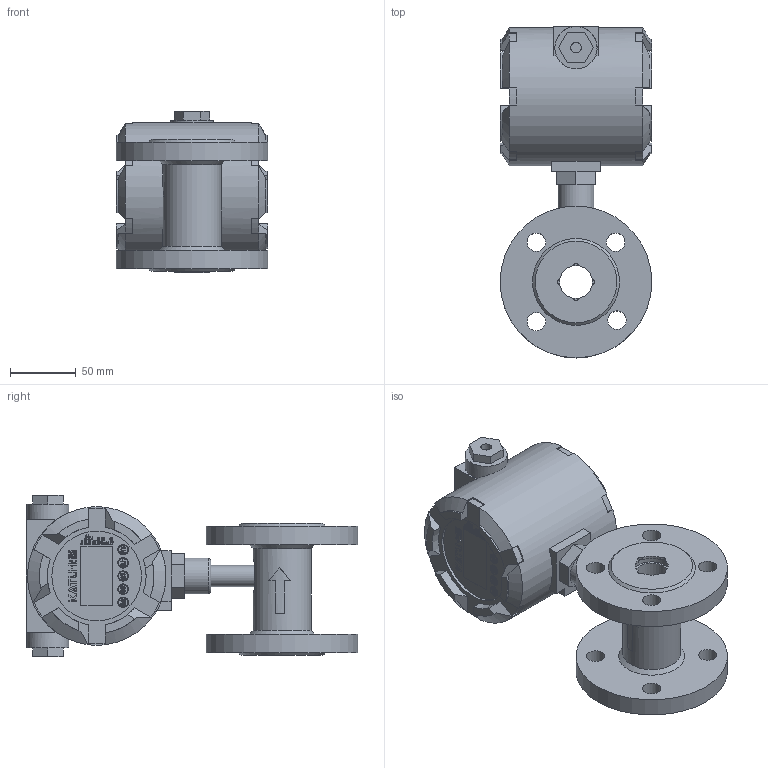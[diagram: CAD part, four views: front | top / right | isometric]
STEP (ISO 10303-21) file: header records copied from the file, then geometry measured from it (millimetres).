
FILE_DESCRIPTION( (''), '2;1');
FILE_NAME( 'QTKC_DN25_flange_Ex.step', '2024-10-14T10:10:40+08:00', (''), (''), '', '', '');
FILE_SCHEMA (('AUTOMOTIVE_DESIGN { 1 0 10303 214 3 1 1 1 }'));
Length unit declared in the file: millimetre
Products named in the file (1): QTKC DN25_flange_Ex
Bounding box: 115.02 x 251.5 x 122.4 mm (x, y, z)
Volume: 1286494.2 mm3; surface area: 146992.4 mm2
Topology: 4 solids, 4 shells, 1373 faces, 3758 edges, 2498 vertices
Faces by surface type: plane 743, extrusion 504, cylinder 96, cone 21, torus 6, bspline 3
Full cylindrical faces by diameter (mm): 3.3 x1, 8 x2, 14 x8, 16 x1, 16.5 x1, 18.5 x1, 20 x2, 25 x1, 27 x1, 28 x2, 32 x2, 44 x1, 68 x1, 105 x1, 115 x2
Entity records: 46665 total; most frequent: CARTESIAN_POINT 13939, ORIENTED_EDGE 7404, DIRECTION 5089, EDGE_CURVE 3702, VECTOR 2817, VERTEX_POINT 2482, LINE 2313, B_SPLINE_CURVE_WITH_KNOTS 1624
